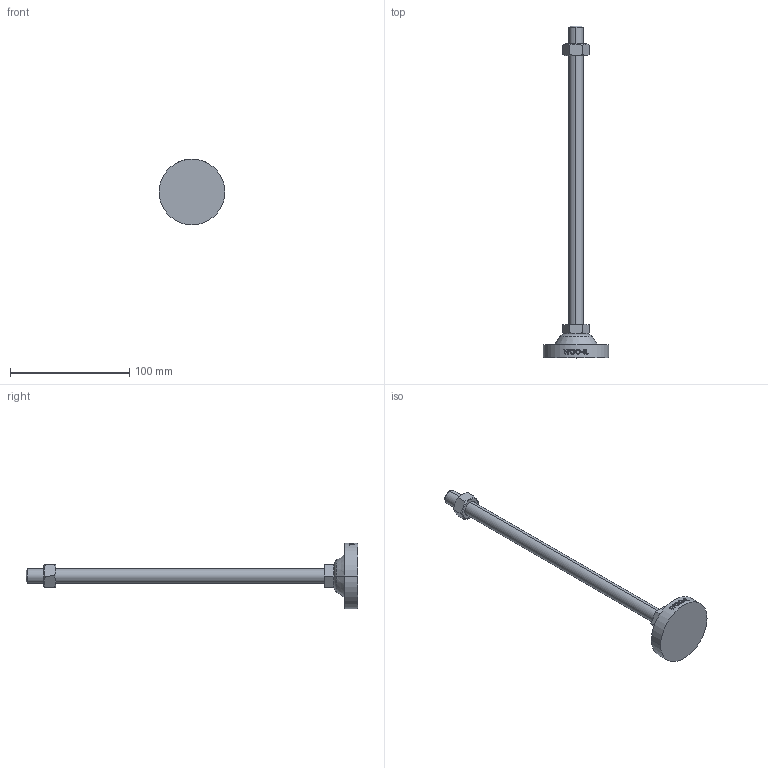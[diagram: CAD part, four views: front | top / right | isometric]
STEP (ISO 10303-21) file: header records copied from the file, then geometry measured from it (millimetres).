
FILE_DESCRIPTION (( 'STEP AP214' ), '1' );
FILE_NAME ('RB55-M12-250.step', '2021-01-18T05:49:19', ( '' ), ( '' ), 'SwSTEP 2.0', 'SolidWorks 2019', '' );
FILE_SCHEMA (( 'AUTOMOTIVE_DESIGN' ));
Length unit declared in the file: millimetre
Products named in the file (2): RB55-M12-250
Bounding box: 55 x 278 x 55 mm (x, y, z)
Volume: 62237.7 mm3; surface area: 20071.8 mm2
Topology: 2 solids, 3 shells, 128 faces, 317 edges, 206 vertices
Faces by surface type: plane 48, cylinder 42, bspline 18, cone 16, torus 4
Entity records: 5349 total; most frequent: CARTESIAN_POINT 2507, ORIENTED_EDGE 634, DIRECTION 479, EDGE_CURVE 317, VERTEX_POINT 206, AXIS2_PLACEMENT_3D 176, EDGE_LOOP 141, FACE_OUTER_BOUND 128
